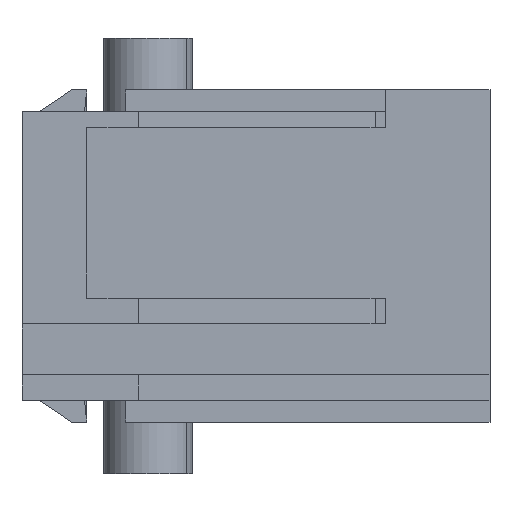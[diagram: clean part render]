
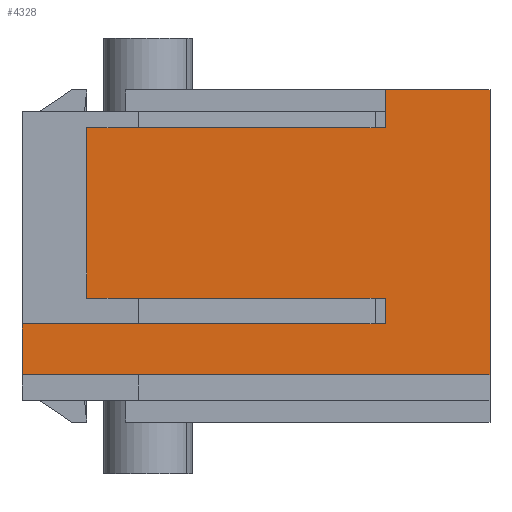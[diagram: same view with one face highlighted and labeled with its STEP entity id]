
A CAD part, front view. The second image highlights one B-rep face of the part: STEP entity #4328.
In plain terms, the highlighted planar face has unit normal (0, -1, 0).
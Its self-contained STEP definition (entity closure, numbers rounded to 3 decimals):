
#4262=AXIS2_PLACEMENT_3D('Plane Axis2P3D',#4259,#4260,#4261) ;
#163=CARTESIAN_POINT('Vertex',(-21.7,-37.2,-5.5)) ;
#166=CARTESIAN_POINT('Line Origine',(-21.7,-37.2,-4.325)) ;
#170=CARTESIAN_POINT('Vertex',(-21.7,-37.2,-3.15)) ;
#1921=CARTESIAN_POINT('Vertex',(0.,-37.2,7.7)) ;
#1924=CARTESIAN_POINT('Line Origine',(0.,-37.2,1.1)) ;
#1928=CARTESIAN_POINT('Vertex',(0.,-37.2,-5.5)) ;
#4259=CARTESIAN_POINT('Axis2P3D Location',(0.,-37.2,7.7)) ;
#4264=CARTESIAN_POINT('Line Origine',(-2.425,-37.2,7.7)) ;
#4268=CARTESIAN_POINT('Vertex',(-4.85,-37.2,7.7)) ;
#4271=CARTESIAN_POINT('Line Origine',(-4.85,-37.2,6.825)) ;
#4275=CARTESIAN_POINT('Vertex',(-4.85,-37.2,5.95)) ;
#4278=CARTESIAN_POINT('Line Origine',(-11.775,-37.2,5.95)) ;
#4282=CARTESIAN_POINT('Vertex',(-18.7,-37.2,5.95)) ;
#4285=CARTESIAN_POINT('Line Origine',(-18.7,-37.2,2.)) ;
#4289=CARTESIAN_POINT('Vertex',(-18.7,-37.2,-1.95)) ;
#4292=CARTESIAN_POINT('Line Origine',(-11.775,-37.2,-1.95)) ;
#4296=CARTESIAN_POINT('Vertex',(-4.85,-37.2,-1.95)) ;
#4299=CARTESIAN_POINT('Line Origine',(-4.85,-37.2,-2.55)) ;
#4303=CARTESIAN_POINT('Vertex',(-4.85,-37.2,-3.15)) ;
#4306=CARTESIAN_POINT('Line Origine',(-13.275,-37.2,-3.15)) ;
#4311=CARTESIAN_POINT('Line Origine',(-10.85,-37.2,-5.5)) ;
#167=DIRECTION('Vector Direction',(0.,0.,-1.)) ;
#1925=DIRECTION('Vector Direction',(0.,0.,-1.)) ;
#4260=DIRECTION('Axis2P3D Direction',(0.,1.,0.)) ;
#4261=DIRECTION('Axis2P3D XDirection',(0.,0.,-1.)) ;
#4265=DIRECTION('Vector Direction',(-1.,0.,0.)) ;
#4272=DIRECTION('Vector Direction',(0.,0.,-1.)) ;
#4279=DIRECTION('Vector Direction',(1.,0.,0.)) ;
#4286=DIRECTION('Vector Direction',(0.,0.,1.)) ;
#4293=DIRECTION('Vector Direction',(1.,0.,0.)) ;
#4300=DIRECTION('Vector Direction',(0.,0.,-1.)) ;
#4307=DIRECTION('Vector Direction',(-1.,0.,0.)) ;
#4312=DIRECTION('Vector Direction',(-1.,0.,0.)) ;
#168=VECTOR('Line Direction',#167,1.) ;
#1926=VECTOR('Line Direction',#1925,1.) ;
#4266=VECTOR('Line Direction',#4265,1.) ;
#4273=VECTOR('Line Direction',#4272,1.) ;
#4280=VECTOR('Line Direction',#4279,1.) ;
#4287=VECTOR('Line Direction',#4286,1.) ;
#4294=VECTOR('Line Direction',#4293,1.) ;
#4301=VECTOR('Line Direction',#4300,1.) ;
#4308=VECTOR('Line Direction',#4307,1.) ;
#4313=VECTOR('Line Direction',#4312,1.) ;
#4317=ORIENTED_EDGE('',*,*,#4270,.T.) ;
#4318=ORIENTED_EDGE('',*,*,#4277,.T.) ;
#4319=ORIENTED_EDGE('',*,*,#4284,.F.) ;
#4320=ORIENTED_EDGE('',*,*,#4291,.F.) ;
#4321=ORIENTED_EDGE('',*,*,#4298,.T.) ;
#4322=ORIENTED_EDGE('',*,*,#4305,.T.) ;
#4323=ORIENTED_EDGE('',*,*,#4310,.T.) ;
#4324=ORIENTED_EDGE('',*,*,#172,.T.) ;
#4325=ORIENTED_EDGE('',*,*,#4315,.F.) ;
#4326=ORIENTED_EDGE('',*,*,#1930,.F.) ;
#4328=ADVANCED_FACE('\X2\FF8EFF9EFF83FF9EFF68FF70\X0\.2',(#4327),#4263,.F.) ;
#172=EDGE_CURVE('',#171,#164,#169,.T.) ;
#1930=EDGE_CURVE('',#1922,#1929,#1927,.T.) ;
#4270=EDGE_CURVE('',#1922,#4269,#4267,.T.) ;
#4277=EDGE_CURVE('',#4269,#4276,#4274,.T.) ;
#4284=EDGE_CURVE('',#4283,#4276,#4281,.T.) ;
#4291=EDGE_CURVE('',#4290,#4283,#4288,.T.) ;
#4298=EDGE_CURVE('',#4290,#4297,#4295,.T.) ;
#4305=EDGE_CURVE('',#4297,#4304,#4302,.T.) ;
#4310=EDGE_CURVE('',#4304,#171,#4309,.T.) ;
#4315=EDGE_CURVE('',#1929,#164,#4314,.T.) ;
#4316=EDGE_LOOP('',(#4317,#4318,#4319,#4320,#4321,#4322,#4323,#4324,#4325,#4326)) ;
#4327=FACE_OUTER_BOUND('',#4316,.T.) ;
#169=LINE('Line',#166,#168) ;
#1927=LINE('Line',#1924,#1926) ;
#4267=LINE('Line',#4264,#4266) ;
#4274=LINE('Line',#4271,#4273) ;
#4281=LINE('Line',#4278,#4280) ;
#4288=LINE('Line',#4285,#4287) ;
#4295=LINE('Line',#4292,#4294) ;
#4302=LINE('Line',#4299,#4301) ;
#4309=LINE('Line',#4306,#4308) ;
#4314=LINE('Line',#4311,#4313) ;
#4263=PLANE('',#4262) ;
#164=VERTEX_POINT('',#163) ;
#171=VERTEX_POINT('',#170) ;
#1922=VERTEX_POINT('',#1921) ;
#1929=VERTEX_POINT('',#1928) ;
#4269=VERTEX_POINT('',#4268) ;
#4276=VERTEX_POINT('',#4275) ;
#4283=VERTEX_POINT('',#4282) ;
#4290=VERTEX_POINT('',#4289) ;
#4297=VERTEX_POINT('',#4296) ;
#4304=VERTEX_POINT('',#4303) ;
